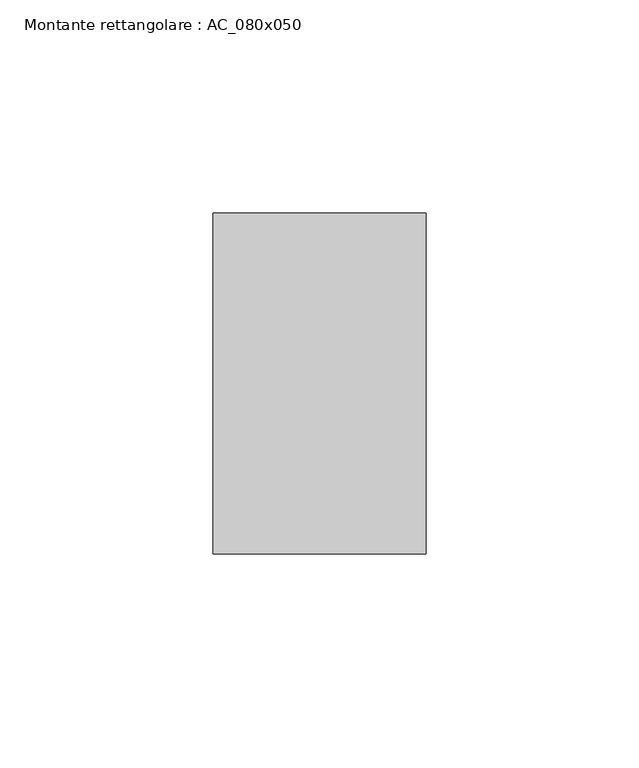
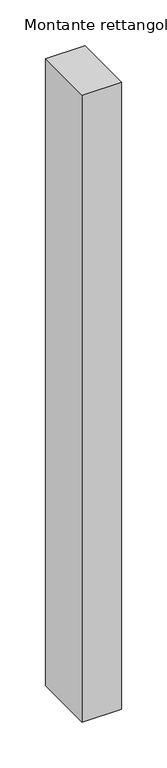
"""IFC4 building model written with IfcOpenShell, lengths in millimetres: member geometry, Montante rettangolare : AC_080x050."""

from ifc_helpers import new_model, si_unit, frame, origin, place, context, project, spatial, polyline, outline, extrude, source, transform, mapped, element, save


def montante_rettangolare_ac_080x050_6629c8e8(model_context):
    return source(origin(), model_context, "Body", "SweptSolid", [
        extrude(outline(polyline([(0.0, 40.0), (0.0, -40.0), (-50.0, -40.0), (-50.0, 40.0), (0.0, 40.0)])), frame((0.0, 0.0, -837.9226375), z_axis=(0.0, 0.0, 1.0), x_axis=(1.0, 0.0, 0.0)), (0.0, 0.0, 1.0), 837.9226375),
    ])


if __name__ == "__main__":
    model = new_model("IFC4")
    model_context = context("Model", 3, world=origin())
    ifc_project = project(units=[si_unit("LENGTHUNIT", "METRE", prefix="MILLI")], contexts=[model_context])
    site = spatial("IfcSite", under=ifc_project)
    building = spatial("IfcBuilding", under=site)
    placement = place(None, origin())
    montante_rettangolare_ac_080x050_shape = montante_rettangolare_ac_080x050_6629c8e8(model_context)
    element("IfcMember", 1, ObjectType="Montante rettangolare : AC_080x050", at=placement, inside=building, context=model_context, shape_type="MappedRepresentation", body=[
        mapped(montante_rettangolare_ac_080x050_shape, transform((0.0, 0.0, 0.0), x_axis=(1.0, 0.0, 0.0), y_axis=(0.0, 1.0, 0.0), z_axis=(0.0, 0.0, 1.0))),
    ])
    save(model, "model.ifc")
